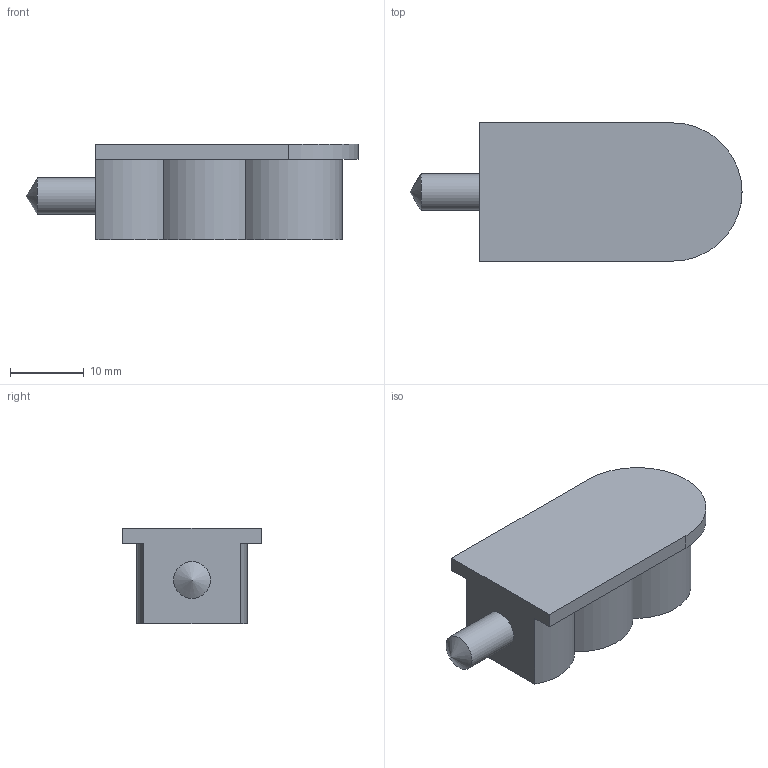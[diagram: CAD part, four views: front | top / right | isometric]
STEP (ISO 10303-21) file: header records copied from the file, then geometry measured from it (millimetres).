
FILE_DESCRIPTION(/* description */ (''),/* implementation_level */ '2;1');
FILE_NAME(/* name */ 'C:\Users\matthiask.LAMELLONET\Desktop\Cabineo_Abdeckkappe_flächenbündig_Variante_1-2_Gegenbohrung_D5x8mm.stp',/* time_stamp */ '2021-07-13T14:27:58+02:00',/* author */ ('matthiask'),/* organization */ (''),/* preprocessor_version */ 'ST-DEVELOPER v18',/* originating_system */ 'Autodesk Inventor 2020',/* authorisation */ '');
FILE_SCHEMA (('AUTOMOTIVE_DESIGN { 1 0 10303 214 3 1 1 }'));
Length unit declared in the file: millimetre
Products named in the file (3): Cabineo Abdeckkappe flächenbündig Variante 1-2_Gegenbohrung D
5x8; Cabineo Abdeckkappe flächenbündig Variante 1-2; Bohrung D8x13.5
Assembly tree (2 placements, depth 2):
  Cabineo Abdeckkappe flächenbündig Variante 1-2_Gegenbohrung D
5x8
    Cabineo Abdeckkappe flächenbündig Variante 1-2
    Bohrung D8x13.5
Bounding box: 45.15 x 18.8 x 13 mm (x, y, z)
Volume: 6299.1 mm3; surface area: 2677.7 mm2
Topology: 2 solids, 2 shells, 15 faces, 37 edges, 25 vertices
Faces by surface type: plane 7, cylinder 7, cone 1
Full cylindrical faces by diameter (mm): 5 x1
Entity records: 573 total; most frequent: DIRECTION 92, CARTESIAN_POINT 81, ORIENTED_EDGE 72, EDGE_CURVE 36, AXIS2_PLACEMENT_3D 36, VERTEX_POINT 25, LINE 20, VECTOR 20
